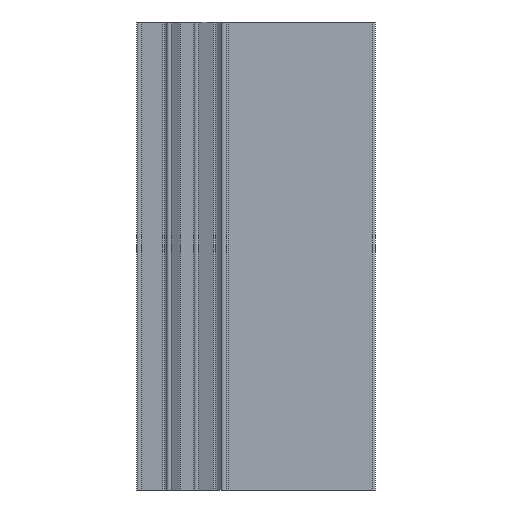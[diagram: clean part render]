
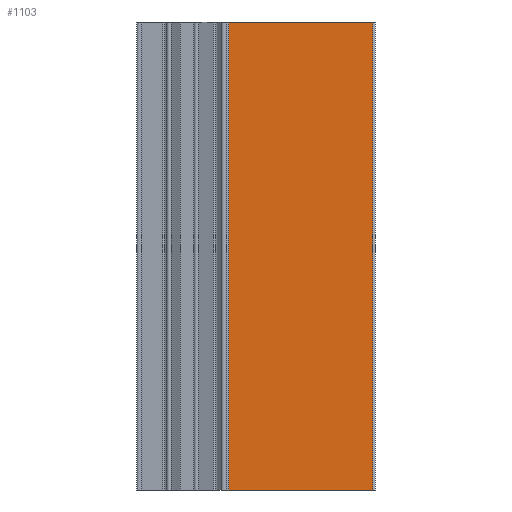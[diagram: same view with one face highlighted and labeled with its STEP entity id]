
A CAD part, left-side view. The second image highlights one B-rep face of the part: STEP entity #1103.
In plain terms, the highlighted planar face has unit normal (-1, 0, 0).
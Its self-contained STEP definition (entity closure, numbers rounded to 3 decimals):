
#40 = ORIENTED_EDGE ( 'NONE', *, *, #2624, .T. ) ;
#325 = EDGE_CURVE ( 'NONE', #4376, #453, #2744, .T. ) ;
#429 = VERTEX_POINT ( 'NONE', #3543 ) ;
#444 = EDGE_CURVE ( 'NONE', #429, #4376, #3613, .T. ) ;
#453 = VERTEX_POINT ( 'NONE', #3628 ) ;
#751 = ORIENTED_EDGE ( 'NONE', *, *, #444, .F. ) ;
#788 = VERTEX_POINT ( 'NONE', #2664 ) ;
#827 = EDGE_CURVE ( 'NONE', #788, #453, #2828, .T. ) ;
#888 = ORIENTED_EDGE ( 'NONE', *, *, #827, .T. ) ;
#978 = ORIENTED_EDGE ( 'NONE', *, *, #325, .F. ) ;
#1103 = ADVANCED_FACE ( 'NONE', ( #3453 ), #3454, .T. ) ;
#1435 = LINE ( 'NONE', #1436, #1437 ) ;
#1436 = CARTESIAN_POINT ( 'NONE',  ( -145.064, -65.548, 94. ) ) ;
#1437 = VECTOR ( 'NONE', #1438, 1000. ) ;
#1438 = DIRECTION ( 'NONE',  ( 0., 0., -1. ) ) ;
#2624 = EDGE_CURVE ( 'NONE', #429, #788, #1435, .T. ) ;
#2664 = CARTESIAN_POINT ( 'NONE',  ( -145.064, -65.548, 0. ) ) ;
#2744 = LINE ( 'NONE', #2745, #2750 ) ;
#2745 = CARTESIAN_POINT ( 'NONE',  ( -145.064, -94.548, 94. ) ) ;
#2750 = VECTOR ( 'NONE', #2751, 1000. ) ;
#2751 = DIRECTION ( 'NONE',  ( 0., 0., -1. ) ) ;
#2828 = LINE ( 'NONE', #2829, #2830 ) ;
#2829 = CARTESIAN_POINT ( 'NONE',  ( -145.064, -121.315, 0. ) ) ;
#2830 = VECTOR ( 'NONE', #2831, 1000. ) ;
#2831 = DIRECTION ( 'NONE',  ( 0., -1., 0. ) ) ;
#3453 = FACE_OUTER_BOUND ( 'NONE', #4478, .T. ) ;
#3454 = PLANE ( 'NONE',  #3455 ) ;
#3455 = AXIS2_PLACEMENT_3D ( 'NONE', #3456, #3457, #3458 ) ;
#3456 = CARTESIAN_POINT ( 'NONE',  ( -145.064, -121.315, 94. ) ) ;
#3457 = DIRECTION ( 'NONE',  ( -1., 0., 0. ) ) ;
#3458 = DIRECTION ( 'NONE',  ( 0., 0., -1. ) ) ;
#3543 = CARTESIAN_POINT ( 'NONE',  ( -145.064, -65.548, 94. ) ) ;
#3613 = LINE ( 'NONE', #3614, #3615 ) ;
#3614 = CARTESIAN_POINT ( 'NONE',  ( -145.064, -121.315, 94. ) ) ;
#3615 = VECTOR ( 'NONE', #3616, 1000. ) ;
#3616 = DIRECTION ( 'NONE',  ( 0., -1., 0. ) ) ;
#3628 = CARTESIAN_POINT ( 'NONE',  ( -145.064, -94.548, 0. ) ) ;
#3742 = CARTESIAN_POINT ( 'NONE',  ( -145.064, -94.548, 94. ) ) ;
#4376 = VERTEX_POINT ( 'NONE', #3742 ) ;
#4478 = EDGE_LOOP ( 'NONE', ( #888, #978, #751, #40 ) ) ;
